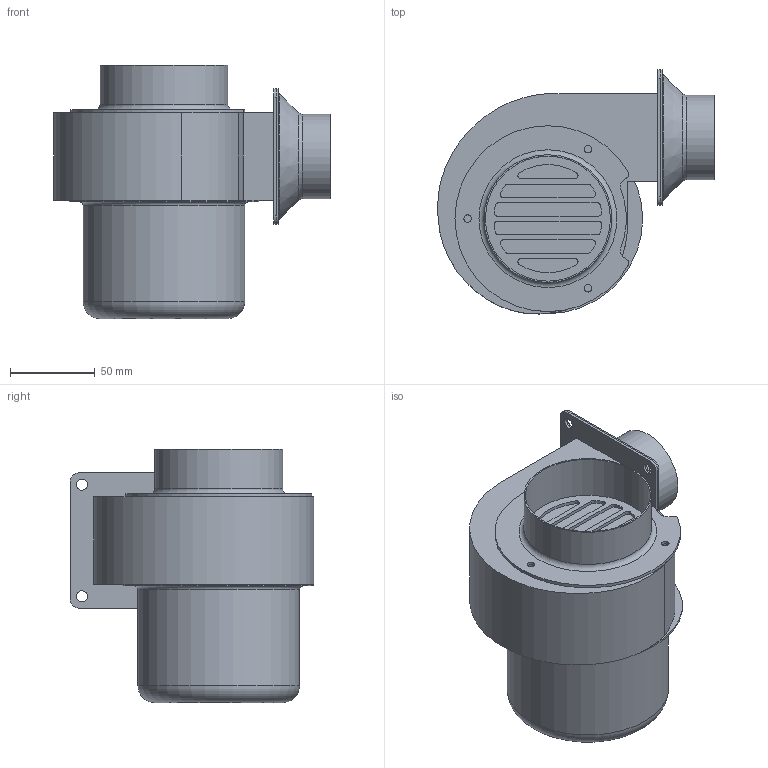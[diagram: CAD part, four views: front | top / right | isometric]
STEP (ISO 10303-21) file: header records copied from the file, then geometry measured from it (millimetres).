
FILE_DESCRIPTION(/* description */ ('Unknown'),/* implementation_level */ '2;1');
FILE_NAME(/* name */ 'CY074A2SP1-GU 型錄',/* time_stamp */ '2026-03-10T16:42:03+08:00',/* author */ ('Unknown'),/* organization */ ('Unknown'),/* preprocessor_version */ 'ST-DEVELOPER v20',/* originating_system */ 'Solid Edge',/* authorisation */ 'Unknown');
FILE_SCHEMA (('AUTOMOTIVE_DESIGN {1 0 10303 214 3 1 1}'));
Length unit declared in the file: millimetre
Products named in the file (4): CY074A2SP1-GU 型; CY074-01; CY076-04 + 08; CY076-05
Assembly tree (3 placements, depth 2):
  CY074A2SP1-GU 型
    CY074-01
    CY076-04 + 08
    CY076-05
Bounding box: 163.77 x 144.33 x 149.8 mm (x, y, z)
Volume: 1217582.8 mm3; surface area: 141038 mm2
Topology: 4 solids, 4 shells, 120 faces, 297 edges, 196 vertices
Faces by surface type: cylinder 68, plane 41, torus 7, bspline 2, cone 2
Full cylindrical faces by diameter (mm): 4.5 x9, 6.5 x8, 48 x1, 50 x1, 74 x1, 75.6 x1, 95.649 x1, 112.149 x1
Entity records: 3731 total; most frequent: CARTESIAN_POINT 715, DIRECTION 647, ORIENTED_EDGE 524, AXIS2_PLACEMENT_3D 267, EDGE_CURVE 262, EDGE_LOOP 199, FACE_BOUND 199, VERTEX_POINT 193
